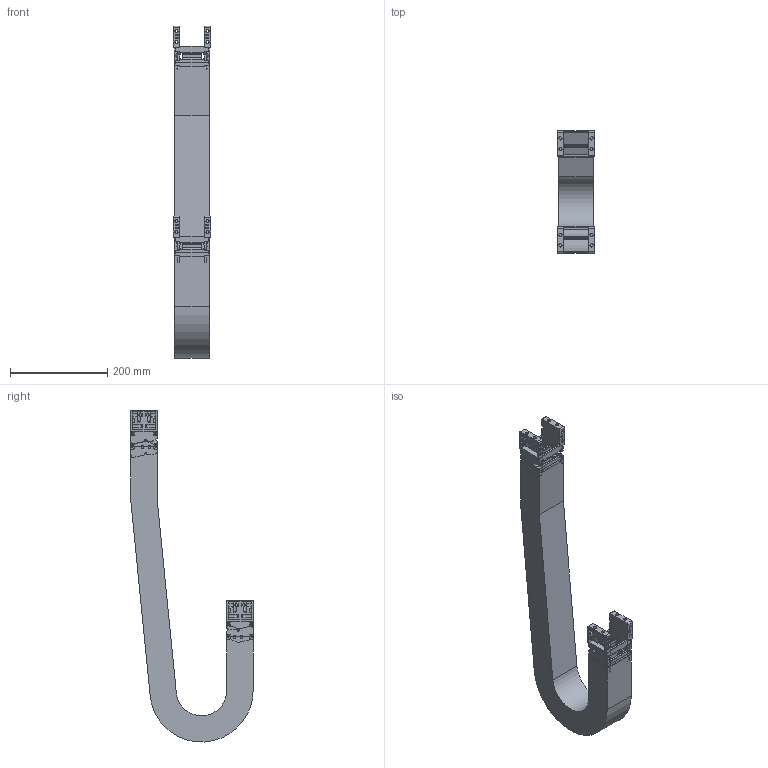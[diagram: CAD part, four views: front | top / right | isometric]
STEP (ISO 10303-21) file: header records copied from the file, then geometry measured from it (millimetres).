
FILE_DESCRIPTION((''),'2;1');
FILE_NAME('KST-40050-075_ASM','2017-12-06T',('KUNI004K'),(''),'PRO/ENGINEER BY PARAMETRIC TECHNOLOGY CORPORATION, 2015200','PRO/ENGINEER BY PARAMETRIC TECHNOLOGY CORPORATION, 2015200','');
FILE_SCHEMA(('AUTOMOTIVE_DESIGN { 1 0 10303 214 1 1 1 1 }'));
Length unit declared in the file: millimetre
Products named in the file (13): 40FBR; 40FBL; 40050C; KST40FB_W050_ASM; KST40075R; KST40075L; 40050H; KST40050-075_1_ASM; KST40050_R75_BODY; 40MBR; 40MBL; KST40MB_W050_ASM; KST-40050-075_ASM
Assembly tree (19 placements, depth 3):
  KST-40050-075_ASM
    KST40FB_W050_ASM
      40FBR
      40FBL
      40050C  x2
    KST40050-075_1_ASM  x2
      KST40075R
      KST40075L
      40050C
      40050H
    KST40050_R75_BODY
    KST40MB_W050_ASM
      40MBR
      40MBL
      40050C  x2
Bounding box: 76 x 251 x 681.42 mm (x, y, z)
Volume: 1674325 mm3; surface area: 568451.5 mm2
Topology: 21 solids, 21 shells, 2616 faces, 7102 edges, 4556 vertices
Faces by surface type: plane 1342, cylinder 906, bspline 304, torus 64
Entity records: 65841 total; most frequent: CARTESIAN_POINT 13408, ORIENTED_EDGE 7032, DIRECTION 6374, PRESENTATION_STYLE_ASSIGNMENT 4800, STYLED_ITEM 4800, CURVE_STYLE 3516, EDGE_CURVE 3516, VERTEX_POINT 2272
